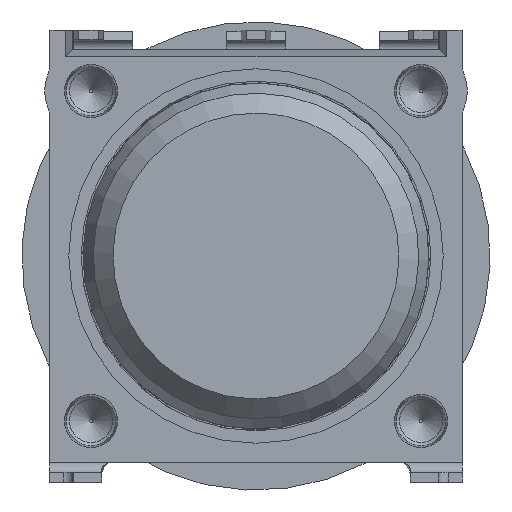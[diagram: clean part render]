
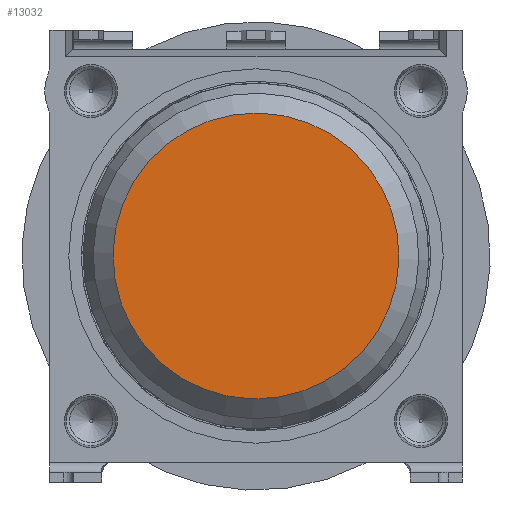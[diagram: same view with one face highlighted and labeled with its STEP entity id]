
A CAD part, left-side view. The second image highlights one B-rep face of the part: STEP entity #13032.
In plain terms, the highlighted planar face has unit normal (-1, 0, 0) as drawn and (0, 0, 1) by its records, which use the part's own axes.
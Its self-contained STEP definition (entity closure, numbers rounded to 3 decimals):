
#4911=ORIENTED_EDGE('',*,*,#7844,.T.);
#7844=EDGE_CURVE('',#9482,#9482,#10421,.T.);
#9482=VERTEX_POINT('',#20506);
#10421=CIRCLE('',#14788,4.334);
#11006=EDGE_LOOP('',(#4911));
#11874=FACE_BOUND('',#11006,.T.);
#12494=PLANE('',#14787);
#13032=ADVANCED_FACE('',(#11874),#12494,.T.);
#14787=AXIS2_PLACEMENT_3D('',#20504,#17118,#17119);
#14788=AXIS2_PLACEMENT_3D('',#20505,#17120,#17121);
#17118=DIRECTION('',(0.,0.,1.));
#17119=DIRECTION('',(1.,0.,0.));
#17120=DIRECTION('',(0.,0.,1.));
#17121=DIRECTION('',(1.,0.,0.));
#20504=CARTESIAN_POINT('',(0.,0.,1.4));
#20505=CARTESIAN_POINT('',(0.,0.,1.4));
#20506=CARTESIAN_POINT('',(4.334,0.,1.4));
